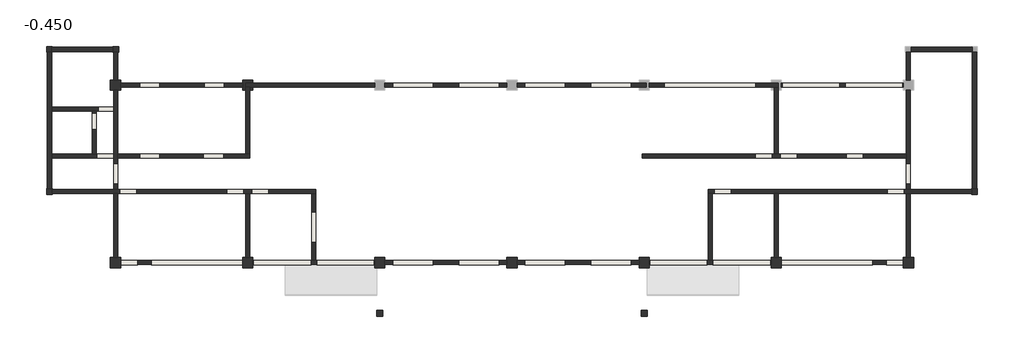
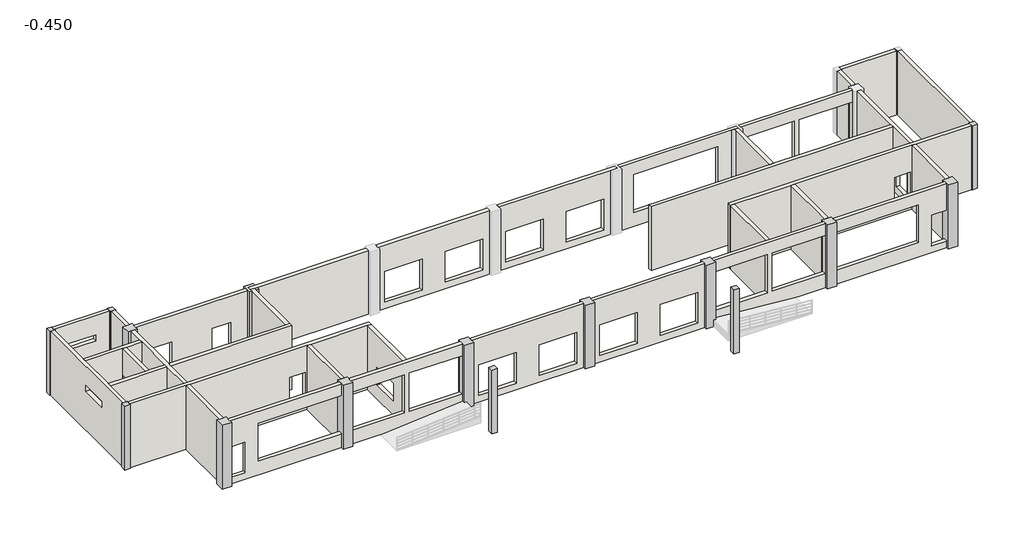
# One storey, part 1 of 2: 34 walls, 15 columns.
"""IFC4 building model written with IfcOpenShell, lengths in millimetres."""

from ifc_helpers import new_model, si_unit, frame, origin, place, context, project, spatial, polyline, outline, extrude, faceted_brep, transform, mapped, element, save
from components import z1_350mmx350mm_4dd75d84, z1_350mmx350mm_3cc50a67, z2_600mmx600mm_a56e41cd, z2_600mmx600mm_1a03ecea

model = new_model("IFC4")

# Units and contexts
model_context = context("Model", 3, world=origin())
ifc_project = project(units=[si_unit("LENGTHUNIT", "METRE", prefix="MILLI")], contexts=[model_context])

# Site, building, storey
site = spatial("IfcSite", under=ifc_project)
building = spatial("IfcBuilding", under=site)
storey = spatial("IfcBuildingStorey", under=building, Name="-0.450", Elevation=-450.0)

# Columns
placement = place(None, origin())
z1_350mmx350mm_shape = z1_350mmx350mm_4dd75d84(model_context)
element("IfcColumn", 1, ObjectType="混凝土 - 矩形 - 柱 : Z1-350mmX350mm", at=placement, inside=storey, context=model_context, shape_type="MappedRepresentation", body=[
    mapped(z1_350mmx350mm_shape, transform((-7567.0109656, 7616.6095817, 0.0), x_axis=(1.0, 0.0, 0.0), y_axis=(0.0, 1.0, 0.0), z_axis=(0.0, 0.0, 1.0))),
])
element("IfcColumn", 2, ObjectType="混凝土 - 矩形 - 柱 : Z1-350mmX350mm", at=placement, inside=storey, context=model_context, shape_type="MappedRepresentation", body=[
    mapped(z1_350mmx350mm_shape, transform((-3667.0109656, 7616.6095817, 0.0), x_axis=(1.0, 0.0, 0.0), y_axis=(0.0, 1.0, 0.0), z_axis=(0.0, 0.0, 1.0))),
])
element("IfcColumn", 3, ObjectType="混凝土 - 矩形 - 柱 : Z1-350mmX350mm", at=placement, inside=storey, context=model_context, shape_type="MappedRepresentation", body=[
    mapped(z1_350mmx350mm_shape, transform((-7567.0109656, -783.3904183, 0.0), x_axis=(1.0, 0.0, 0.0), y_axis=(0.0, 1.0, 0.0), z_axis=(0.0, 0.0, 1.0))),
])
element("IfcColumn", 4, ObjectType="混凝土 - 矩形 - 柱 : Z1-350mmX350mm", at=placement, inside=storey, context=model_context, shape_type="MappedRepresentation", body=[
    mapped(z1_350mmx350mm_shape, transform((11932.9890344, -7983.3904183, 0.0), x_axis=(1.0, 0.0, 0.0), y_axis=(0.0, 1.0, 0.0), z_axis=(0.0, 0.0, 1.0))),
])
z1_350mmx350mm_2_shape = z1_350mmx350mm_3cc50a67(model_context)
element("IfcColumn", 5, ObjectType="混凝土 - 矩形 - 柱 : Z1-350mmX350mm", at=placement, inside=storey, context=model_context, shape_type="MappedRepresentation", body=[
    mapped(z1_350mmx350mm_2_shape, transform((47032.9890344, -783.3904183, 0.0), x_axis=(-1.0, 0.0, 0.0), y_axis=(0.0, -1.0, 0.0), z_axis=(0.0, 0.0, 1.0))),
])
element("IfcColumn", 6, ObjectType="混凝土 - 矩形 - 柱 : Z1-350mmX350mm", at=placement, inside=storey, context=model_context, shape_type="MappedRepresentation", body=[
    mapped(z1_350mmx350mm_2_shape, transform((27532.9890344, -7983.3904183, 0.0), x_axis=(-1.0, 0.0, 0.0), y_axis=(0.0, -1.0, 0.0), z_axis=(0.0, 0.0, 1.0))),
])
z2_600mmx600mm_shape = z2_600mmx600mm_a56e41cd(model_context)
element("IfcColumn", 7, ObjectType="混凝土 - 矩形 - 柱 : Z2-600mmX600mm", at=placement, inside=storey, context=model_context, shape_type="MappedRepresentation", body=[
    mapped(z2_600mmx600mm_shape, transform((-3667.0109656, 5516.6095817, 0.0), x_axis=(1.0, 0.0, 0.0), y_axis=(0.0, 1.0, 0.0), z_axis=(0.0, 0.0, 1.0))),
])
element("IfcColumn", 8, ObjectType="混凝土 - 矩形 - 柱 : Z2-600mmX600mm", at=placement, inside=storey, context=model_context, shape_type="MappedRepresentation", body=[
    mapped(z2_600mmx600mm_shape, transform((4132.9890344, 5516.6095817, 0.0), x_axis=(1.0, 0.0, 0.0), y_axis=(0.0, 1.0, 0.0), z_axis=(0.0, 0.0, 1.0))),
])
element("IfcColumn", 9, ObjectType="混凝土 - 矩形 - 柱 : Z2-600mmX600mm", at=placement, inside=storey, context=model_context, shape_type="MappedRepresentation", body=[
    mapped(z2_600mmx600mm_shape, transform((-3667.0109656, -4983.3904183, 0.0), x_axis=(1.0, 0.0, 0.0), y_axis=(0.0, 1.0, 0.0), z_axis=(0.0, 0.0, 1.0))),
])
element("IfcColumn", 10, ObjectType="混凝土 - 矩形 - 柱 : Z2-600mmX600mm", at=placement, inside=storey, context=model_context, shape_type="MappedRepresentation", body=[
    mapped(z2_600mmx600mm_shape, transform((4132.9890344, -4983.3904183, 0.0), x_axis=(1.0, 0.0, 0.0), y_axis=(0.0, 1.0, 0.0), z_axis=(0.0, 0.0, 1.0))),
])
element("IfcColumn", 11, ObjectType="混凝土 - 矩形 - 柱 : Z2-600mmX600mm", at=placement, inside=storey, context=model_context, shape_type="MappedRepresentation", body=[
    mapped(z2_600mmx600mm_shape, transform((11932.9890344, -4983.3904183, 0.0), x_axis=(1.0, 0.0, 0.0), y_axis=(0.0, 1.0, 0.0), z_axis=(0.0, 0.0, 1.0))),
])
element("IfcColumn", 12, ObjectType="混凝土 - 矩形 - 柱 : Z2-600mmX600mm", at=placement, inside=storey, context=model_context, shape_type="MappedRepresentation", body=[
    mapped(z2_600mmx600mm_shape, transform((19732.9890344, -4983.3904183, 0.0), x_axis=(1.0, 0.0, 0.0), y_axis=(0.0, 1.0, 0.0), z_axis=(0.0, 0.0, 1.0))),
])
z2_600mmx600mm_2_shape = z2_600mmx600mm_1a03ecea(model_context)
element("IfcColumn", 13, ObjectType="混凝土 - 矩形 - 柱 : Z2-600mmX600mm", at=placement, inside=storey, context=model_context, shape_type="MappedRepresentation", body=[
    mapped(z2_600mmx600mm_2_shape, transform((43132.9890344, -4983.3904183, 0.0), x_axis=(-1.0, 0.0, 0.0), y_axis=(0.0, -1.0, 0.0), z_axis=(0.0, 0.0, 1.0))),
])
element("IfcColumn", 14, ObjectType="混凝土 - 矩形 - 柱 : Z2-600mmX600mm", at=placement, inside=storey, context=model_context, shape_type="MappedRepresentation", body=[
    mapped(z2_600mmx600mm_2_shape, transform((35332.9890344, -4983.3904183, 0.0), x_axis=(-1.0, 0.0, 0.0), y_axis=(0.0, -1.0, 0.0), z_axis=(0.0, 0.0, 1.0))),
])
element("IfcColumn", 15, ObjectType="混凝土 - 矩形 - 柱 : Z2-600mmX600mm", at=placement, inside=storey, context=model_context, shape_type="MappedRepresentation", body=[
    mapped(z2_600mmx600mm_2_shape, transform((27532.9890344, -4983.3904183, 0.0), x_axis=(-1.0, 0.0, 0.0), y_axis=(0.0, -1.0, 0.0), z_axis=(0.0, 0.0, 1.0))),
])

# Walls
element("IfcWall", 16, ObjectType="240mm厚墙", at=placement, inside=storey, context=model_context, shape_type="Brep", body=[
    faceted_brep([(-7687.0109656, 7441.6095817, -450.0), (-7687.0109656, -608.3904183, -450.0), (-7687.0109656, -608.3904183, 3900.0), (-7687.0109656, 7441.6095817, 3900.0), (-7687.0109656, 3506.6095817, 2600.0), (-7687.0109656, 1706.6095817, 2600.0), (-7687.0109656, 1706.6095817, 2200.0), (-7687.0109656, 3506.6095817, 2200.0), (-7447.0109656, 7441.6095817, -450.0), (-7447.0109656, 7441.6095817, 3900.0), (-7447.0109656, 4221.6095817, 3900.0), (-7447.0109656, 3981.6095817, 3900.0), (-7447.0109656, 1436.6095817, 3900.0), (-7447.0109656, 1196.6095817, 3900.0), (-7447.0109656, -608.3904183, 3900.0), (-7447.0109656, -608.3904183, -450.0), (-7447.0109656, 1196.6095817, -450.0), (-7447.0109656, 1436.6095817, -450.0), (-7447.0109656, 3981.6095817, -450.0), (-7447.0109656, 4221.6095817, -450.0), (-7447.0109656, 3506.6095817, 2600.0), (-7447.0109656, 3506.6095817, 2200.0), (-7447.0109656, 1706.6095817, 2200.0), (-7447.0109656, 1706.6095817, 2600.0)], [[[0, 1, 2, 3], [4, 5, 6, 7]], [[8, 9, 10, 11, 12, 13, 14, 15, 16, 17, 18, 19], [20, 21, 22, 23]], [[1, 0, 8, 19, 18, 17, 16, 15]], [[2, 1, 15, 14]], [[3, 2, 14, 13, 12, 11, 10, 9]], [[0, 3, 9, 8]], [[21, 20, 4, 7]], [[22, 21, 7, 6]], [[23, 22, 6, 5]], [[20, 23, 5, 4]]]),
])
element("IfcWall", 17, ObjectType="240mm厚墙", at=placement, inside=storey, context=model_context, shape_type="Brep", body=[
    faceted_brep([(-7392.0109656, -903.3904183, -450.0), (-3787.0109656, -903.3904183, -450.0), (-3547.0109656, -903.3904183, -450.0), (4012.9890344, -903.3904183, -450.0), (4252.9890344, -903.3904183, -450.0), (7912.9890344, -903.3904183, -450.0), (8152.9890344, -903.3904183, -450.0), (8152.9890344, -903.3904183, 3900.0), (7912.9890344, -903.3904183, 3900.0), (4252.9890344, -903.3904183, 3900.0), (4012.9890344, -903.3904183, 3900.0), (-3547.0109656, -903.3904183, 3900.0), (-3787.0109656, -903.3904183, 3900.0), (-7392.0109656, -903.3904183, 3900.0), (-3427.0109656, -903.3904183, 0.0), (-3427.0109656, -903.3904183, 2100.0), (-2427.0109656, -903.3904183, 2100.0), (-2427.0109656, -903.3904183, 0.0), (3897.9890344, -903.3904183, 0.0), (2897.9890344, -903.3904183, 0.0), (2897.9890344, -903.3904183, 2100.0), (3897.9890344, -903.3904183, 2100.0), (4367.9890344, -903.3904183, 0.0), (4367.9890344, -903.3904183, 2100.0), (5367.9890344, -903.3904183, 2100.0), (5367.9890344, -903.3904183, 0.0), (-7392.0109656, -663.3904183, -450.0), (-7392.0109656, -663.3904183, 3900.0), (-3787.0109656, -663.3904183, 3900.0), (-3547.0109656, -663.3904183, 3900.0), (8152.9890344, -663.3904183, 3900.0), (8152.9890344, -663.3904183, -450.0), (-3547.0109656, -663.3904183, -450.0), (-3787.0109656, -663.3904183, -450.0), (-3427.0109656, -663.3904183, 0.0), (-2427.0109656, -663.3904183, 0.0), (-2427.0109656, -663.3904183, 2100.0), (-3427.0109656, -663.3904183, 2100.0), (3897.9890344, -663.3904183, 0.0), (3897.9890344, -663.3904183, 2100.0), (2897.9890344, -663.3904183, 2100.0), (2897.9890344, -663.3904183, 0.0), (4367.9890344, -663.3904183, 0.0), (5367.9890344, -663.3904183, 0.0), (5367.9890344, -663.3904183, 2100.0), (4367.9890344, -663.3904183, 2100.0)], [[[0, 1, 2, 3, 4, 5, 6, 7, 8, 9, 10, 11, 12, 13], [14, 15, 16, 17], [18, 19, 20, 21], [22, 23, 24, 25]], [[26, 27, 28, 29, 30, 31, 32, 33], [34, 35, 36, 37], [38, 39, 40, 41], [42, 43, 44, 45]], [[6, 5, 4, 3, 2, 1, 0, 26, 33, 32, 31]], [[13, 12, 11, 10, 9, 8, 7, 30, 29, 28, 27]], [[0, 13, 27, 26]], [[7, 6, 31, 30]], [[15, 14, 34, 37]], [[16, 15, 37, 36]], [[17, 16, 36, 35]], [[14, 17, 35, 34]], [[39, 38, 18, 21]], [[40, 39, 21, 20]], [[41, 40, 20, 19]], [[38, 41, 19, 18]], [[23, 22, 42, 45]], [[24, 23, 45, 44]], [[25, 24, 44, 43]], [[22, 25, 43, 42]]]),
])
element("IfcWall", 18, ObjectType="240mm厚墙", at=placement, inside=storey, context=model_context, shape_type="SweptSolid", body=[
    extrude(outline(polyline([(-903.3904183, -450.0), (-4863.3904183, -450.0), (-4863.3904183, 3900.0), (-903.3904183, 3900.0), (-903.3904183, -450.0)]), holes=[polyline([(-3783.3904183, 1700.0), (-3783.3904183, 500.0), (-1983.3904183, 500.0), (-1983.3904183, 1700.0), (-3783.3904183, 1700.0)])]), frame((7912.9890344, 0.0, 0.0), z_axis=(1.0, 0.0, 0.0), x_axis=(0.0, 1.0, 0.0)), (0.0, 0.0, 1.0), 240.0),
])
element("IfcWall", 19, ObjectType="240mm厚墙", at=placement, inside=storey, context=model_context, shape_type="Brep", body=[
    faceted_brep([(11632.9890344, -4863.3904183, -450.0), (8152.9890344, -4863.3904183, -450.0), (7912.9890344, -4863.3904183, -450.0), (4432.9890344, -4863.3904183, -450.0), (4432.9890344, -4863.3904183, 3900.0), (7912.9890344, -4863.3904183, 3900.0), (8152.9890344, -4863.3904183, 3900.0), (11632.9890344, -4863.3904183, 3900.0), (11592.9890344, -4863.3904183, 3100.0), (8192.9890344, -4863.3904183, 3100.0), (8192.9890344, -4863.3904183, 500.0), (11592.9890344, -4863.3904183, 500.0), (7872.9890344, -4863.3904183, 500.0), (7872.9890344, -4863.3904183, 3100.0), (4472.9890344, -4863.3904183, 3100.0), (4472.9890344, -4863.3904183, 500.0), (4432.9890344, -5103.3904183, -450.0), (11632.9890344, -5103.3904183, -450.0), (11632.9890344, -5103.3904183, 3900.0), (4432.9890344, -5103.3904183, 3900.0), (11592.9890344, -5103.3904183, 3100.0), (11592.9890344, -5103.3904183, 500.0), (8192.9890344, -5103.3904183, 500.0), (8192.9890344, -5103.3904183, 3100.0), (7872.9890344, -5103.3904183, 3100.0), (7872.9890344, -5103.3904183, 500.0), (4472.9890344, -5103.3904183, 500.0), (4472.9890344, -5103.3904183, 3100.0)], [[[0, 1, 2, 3, 4, 5, 6, 7], [8, 9, 10, 11], [12, 13, 14, 15]], [[16, 17, 18, 19], [20, 21, 22, 23], [24, 25, 26, 27]], [[3, 2, 1, 0, 17, 16]], [[4, 3, 16, 19]], [[7, 6, 5, 4, 19, 18]], [[0, 7, 18, 17]], [[21, 20, 8, 11]], [[22, 21, 11, 10]], [[23, 22, 10, 9]], [[20, 23, 9, 8]], [[24, 13, 12, 25]], [[25, 12, 15, 26]], [[13, 24, 27, 14]], [[14, 27, 26, 15]]]),
])
element("IfcWall", 20, ObjectType="240mm厚墙", at=placement, inside=storey, context=model_context, shape_type="SweptSolid", body=[
    extrude(outline(polyline([(3900.0, -3367.0109656), (2100.0, -3367.0109656), (2100.0, -2367.0109656), (0.0, -2367.0109656), (0.0, -3367.0109656), (-450.0, -3367.0109656), (-450.0, 3832.9890344), (500.0, 3832.9890344), (500.0, -1567.0109656), (3100.0, -1567.0109656), (3100.0, 3832.9890344), (3900.0, 3832.9890344), (3900.0, -3367.0109656)])), frame((0.0, -5103.3904183, 0.0), z_axis=(0.0, 1.0, 0.0), x_axis=(0.0, 0.0, 1.0)), (0.0, 0.0, 1.0), 240.0),
])
element("IfcWall", 21, ObjectType="240mm厚墙", at=placement, inside=storey, context=model_context, shape_type="SweptSolid", body=[
    extrude(outline(polyline([(-3547.0109656, -903.3904183), (-3547.0109656, -4683.3904183), (-3787.0109656, -4683.3904183), (-3787.0109656, -903.3904183), (-3547.0109656, -903.3904183)])), frame((0.0, 0.0, -450.0), z_axis=(0.0, 0.0, 1.0), x_axis=(1.0, 0.0, 0.0)), (0.0, 0.0, 1.0), 4350.0),
])
element("IfcWall", 22, ObjectType="240mm厚墙", at=placement, inside=storey, context=model_context, shape_type="SweptSolid", body=[
    extrude(outline(polyline([(4252.9890344, -903.3904183), (4252.9890344, -4683.3904183), (4012.9890344, -4683.3904183), (4012.9890344, -903.3904183), (4252.9890344, -903.3904183)])), frame((0.0, 0.0, -450.0), z_axis=(0.0, 0.0, 1.0), x_axis=(1.0, 0.0, 0.0)), (0.0, 0.0, 1.0), 4350.0),
])
element("IfcWall", 23, ObjectType="240mm厚墙", at=placement, inside=storey, context=model_context, shape_type="SweptSolid", body=[
    extrude(outline(polyline([(-450.0, 12232.9890344), (-450.0, 19432.9890344), (3900.0, 19432.9890344), (3900.0, 12232.9890344), (-450.0, 12232.9890344)]), holes=[polyline([(0.0, 16582.9890344), (2100.0, 16582.9890344), (2100.0, 18982.9890344), (0.0, 18982.9890344), (0.0, 16582.9890344)]), polyline([(0.0, 12682.9890344), (2100.0, 12682.9890344), (2100.0, 15082.9890344), (0.0, 15082.9890344), (0.0, 12682.9890344)])]), frame((0.0, -5103.3904183, 0.0), z_axis=(0.0, 1.0, 0.0), x_axis=(0.0, 0.0, 1.0)), (0.0, 0.0, 1.0), 240.0),
])
element("IfcWall", 24, ObjectType="240mm厚墙", at=placement, inside=storey, context=model_context, shape_type="SweptSolid", body=[
    extrude(outline(polyline([(-450.0, 12232.9890344), (-450.0, 19432.9890344), (3900.0, 19432.9890344), (3900.0, 12232.9890344), (-450.0, 12232.9890344)]), holes=[polyline([(2100.0, 15082.9890344), (0.0, 15082.9890344), (0.0, 12682.9890344), (2100.0, 12682.9890344), (2100.0, 15082.9890344)]), polyline([(2100.0, 18982.9890344), (0.0, 18982.9890344), (0.0, 16582.9890344), (2100.0, 16582.9890344), (2100.0, 18982.9890344)])]), frame((0.0, 5396.6095817, 0.0), z_axis=(0.0, 1.0, 0.0), x_axis=(0.0, 0.0, 1.0)), (0.0, 0.0, 1.0), 240.0),
])
element("IfcWall", 25, ObjectType="240mm厚墙", at=placement, inside=storey, context=model_context, shape_type="Brep", body=[
    faceted_brep([(11632.9890344, 5636.6095817, -450.0), (4012.9890344, 5636.6095817, -450.0), (4012.9890344, 5636.6095817, 3900.0), (11632.9890344, 5636.6095817, 3900.0), (11632.9890344, 5396.6095817, -450.0), (11632.9890344, 5396.6095817, 3900.0), (4252.9890344, 5396.6095817, 3900.0), (4012.9890344, 5396.6095817, 3900.0), (4012.9890344, 5396.6095817, -450.0), (4252.9890344, 5396.6095817, -450.0)], [[[0, 1, 2, 3]], [[4, 5, 6, 7, 8, 9]], [[1, 0, 4, 9, 8]], [[3, 2, 7, 6, 5]], [[0, 3, 5, 4]], [[2, 1, 8, 7]]]),
])
element("IfcWall", 26, ObjectType="240mm厚墙", at=placement, inside=storey, context=model_context, shape_type="SweptSolid", body=[
    extrude(outline(polyline([(-450.0, -3367.0109656), (-450.0, 3832.9890344), (3900.0, 3832.9890344), (3900.0, -3367.0109656), (-450.0, -3367.0109656)]), holes=[polyline([(0.0, -2247.0109656), (2100.0, -2247.0109656), (2100.0, -1047.0109656), (0.0, -1047.0109656), (0.0, -2247.0109656)]), polyline([(0.0, 1552.9890344), (2100.0, 1552.9890344), (2100.0, 2752.9890344), (0.0, 2752.9890344), (0.0, 1552.9890344)])]), frame((0.0, 5396.6095817, 0.0), z_axis=(0.0, 1.0, 0.0), x_axis=(0.0, 0.0, 1.0)), (0.0, 0.0, 1.0), 240.0),
])
element("IfcWall", 27, ObjectType="240mm厚墙", at=placement, inside=storey, context=model_context, shape_type="SweptSolid", body=[
    extrude(outline(polyline([(-3547.0109656, 7441.6095817), (-3547.0109656, 5816.6095817), (-3787.0109656, 5816.6095817), (-3787.0109656, 7441.6095817), (-3547.0109656, 7441.6095817)])), frame((0.0, 0.0, -450.0), z_axis=(0.0, 0.0, 1.0), x_axis=(1.0, 0.0, 0.0)), (0.0, 0.0, 1.0), 4350.0),
])
element("IfcWall", 28, ObjectType="240mm厚墙", at=placement, inside=storey, context=model_context, shape_type="SweptSolid", body=[
    extrude(outline(polyline([(-450.0, -3842.0109656), (3900.0, -3842.0109656), (3900.0, -7447.0109656), (-450.0, -7447.0109656), (-450.0, -3842.0109656)]), holes=[polyline([(2600.0, -4744.5109656), (2200.0, -4744.5109656), (2200.0, -6544.5109656), (2600.0, -6544.5109656), (2600.0, -4744.5109656)])]), frame((0.0, 7496.6095817, 0.0), z_axis=(0.0, 1.0, 0.0), x_axis=(0.0, 0.0, 1.0)), (0.0, 0.0, 1.0), 240.0),
])
element("IfcWall", 29, ObjectType="240mm厚墙", at=placement, inside=storey, context=model_context, shape_type="Brep", body=[
    faceted_brep([(-3787.0109656, 5216.6095817, -450.0), (-3787.0109656, 4221.6095817, -450.0), (-3787.0109656, 3981.6095817, -450.0), (-3787.0109656, 1436.6095817, -450.0), (-3787.0109656, 1196.6095817, -450.0), (-3787.0109656, -663.3904183, -450.0), (-3787.0109656, -663.3904183, 3900.0), (-3787.0109656, 1196.6095817, 3900.0), (-3787.0109656, 1436.6095817, 3900.0), (-3787.0109656, 3981.6095817, 3900.0), (-3787.0109656, 4221.6095817, 3900.0), (-3787.0109656, 5216.6095817, 3900.0), (-3787.0109656, -335.8904183, 0.0), (-3787.0109656, 864.1095817, 0.0), (-3787.0109656, 864.1095817, 2100.0), (-3787.0109656, -335.8904183, 2100.0), (-3547.0109656, 5216.6095817, -450.0), (-3547.0109656, 5216.6095817, 3900.0), (-3547.0109656, 1436.6095817, 3900.0), (-3547.0109656, 1196.6095817, 3900.0), (-3547.0109656, -663.3904183, 3900.0), (-3547.0109656, -663.3904183, -450.0), (-3547.0109656, 1196.6095817, -450.0), (-3547.0109656, 1436.6095817, -450.0), (-3547.0109656, -335.8904183, 0.0), (-3547.0109656, -335.8904183, 2100.0), (-3547.0109656, 864.1095817, 2100.0), (-3547.0109656, 864.1095817, 0.0)], [[[0, 1, 2, 3, 4, 5, 6, 7, 8, 9, 10, 11], [12, 13, 14, 15]], [[16, 17, 18, 19, 20, 21, 22, 23], [24, 25, 26, 27]], [[5, 4, 3, 2, 1, 0, 16, 23, 22, 21]], [[11, 10, 9, 8, 7, 6, 20, 19, 18, 17]], [[0, 11, 17, 16]], [[6, 5, 21, 20]], [[25, 24, 12, 15]], [[26, 25, 15, 14]], [[27, 26, 14, 13]], [[24, 27, 13, 12]]]),
])
element("IfcWall", 30, ObjectType="240mm厚墙", at=placement, inside=storey, context=model_context, shape_type="Brep", body=[
    faceted_brep([(-7447.0109656, 1196.6095817, 3900.0), (-7447.0109656, 1196.6095817, -450.0), (-3787.0109656, 1196.6095817, -450.0), (-3787.0109656, 1196.6095817, 0.0), (-4787.0109656, 1196.6095817, 0.0), (-4787.0109656, 1196.6095817, 2100.0), (-3787.0109656, 1196.6095817, 2100.0), (-3787.0109656, 1196.6095817, 3900.0), (-7447.0109656, 1436.6095817, -450.0), (-7447.0109656, 1436.6095817, 3900.0), (-5057.0109656, 1436.6095817, 3900.0), (-4817.0109656, 1436.6095817, 3900.0), (-3787.0109656, 1436.6095817, 3900.0), (-3787.0109656, 1436.6095817, 2100.0), (-4787.0109656, 1436.6095817, 2100.0), (-4787.0109656, 1436.6095817, 0.0), (-3787.0109656, 1436.6095817, 0.0), (-3787.0109656, 1436.6095817, -450.0), (-4817.0109656, 1436.6095817, -450.0), (-5057.0109656, 1436.6095817, -450.0)], [[[0, 1, 2, 3, 4, 5, 6, 7]], [[8, 9, 10, 11, 12, 13, 14, 15, 16, 17, 18, 19]], [[1, 8, 19, 18, 17, 2]], [[9, 0, 7, 12, 11, 10]], [[1, 0, 9, 8]], [[3, 2, 17, 16]], [[7, 6, 13, 12]], [[14, 13, 6, 5]], [[15, 14, 5, 4]], [[16, 15, 4, 3]]]),
    faceted_brep([(4252.9890344, 1196.6095817, -450.0), (4252.9890344, 1196.6095817, 3900.0), (-3547.0109656, 1196.6095817, 3900.0), (-3547.0109656, 1196.6095817, -450.0), (-1047.0109656, 1196.6095817, 2100.0), (-1047.0109656, 1196.6095817, 0.0), (-2247.0109656, 1196.6095817, 0.0), (-2247.0109656, 1196.6095817, 2100.0), (2717.9890344, 1196.6095817, 2100.0), (2717.9890344, 1196.6095817, 0.0), (1517.9890344, 1196.6095817, 0.0), (1517.9890344, 1196.6095817, 2100.0), (4252.9890344, 1436.6095817, 3900.0), (4252.9890344, 1436.6095817, -450.0), (4012.9890344, 1436.6095817, -450.0), (-3547.0109656, 1436.6095817, -450.0), (-3547.0109656, 1436.6095817, 3900.0), (4012.9890344, 1436.6095817, 3900.0), (-1047.0109656, 1436.6095817, 0.0), (-1047.0109656, 1436.6095817, 2100.0), (-2247.0109656, 1436.6095817, 2100.0), (-2247.0109656, 1436.6095817, 0.0), (2717.9890344, 1436.6095817, 0.0), (2717.9890344, 1436.6095817, 2100.0), (1517.9890344, 1436.6095817, 2100.0), (1517.9890344, 1436.6095817, 0.0)], [[[0, 1, 2, 3], [4, 5, 6, 7], [8, 9, 10, 11]], [[12, 13, 14, 15, 16, 17], [18, 19, 20, 21], [22, 23, 24, 25]], [[13, 0, 3, 15, 14]], [[1, 12, 17, 16, 2]], [[3, 2, 16, 15]], [[1, 0, 13, 12]], [[19, 18, 5, 4]], [[20, 19, 4, 7]], [[21, 20, 7, 6]], [[18, 21, 6, 5]], [[23, 22, 9, 8]], [[24, 23, 8, 11]], [[25, 24, 11, 10]], [[22, 25, 10, 9]]]),
])
element("IfcWall", 31, ObjectType="240mm厚墙", at=placement, inside=storey, context=model_context, shape_type="SweptSolid", body=[
    extrude(outline(polyline([(4252.9890344, 5396.6095817), (4252.9890344, 1436.6095817), (4012.9890344, 1436.6095817), (4012.9890344, 5396.6095817), (4252.9890344, 5396.6095817)])), frame((0.0, 0.0, -450.0), z_axis=(0.0, 0.0, 1.0), x_axis=(1.0, 0.0, 0.0)), (0.0, 0.0, 1.0), 4350.0),
])
element("IfcWall", 32, ObjectType="240mm厚墙", at=placement, inside=storey, context=model_context, shape_type="Brep", body=[
    faceted_brep([(-4687.0109656, 3981.6095817, 2100.0), (-3787.0109656, 3981.6095817, 2100.0), (-3787.0109656, 3981.6095817, 3900.0), (-4817.0109656, 3981.6095817, 3900.0), (-5057.0109656, 3981.6095817, 3900.0), (-7447.0109656, 3981.6095817, 3900.0), (-7447.0109656, 3981.6095817, -450.0), (-5057.0109656, 3981.6095817, -450.0), (-4817.0109656, 3981.6095817, -450.0), (-3787.0109656, 3981.6095817, -450.0), (-3787.0109656, 3981.6095817, 0.0), (-4687.0109656, 3981.6095817, 0.0), (-3787.0109656, 4221.6095817, 3900.0), (-3787.0109656, 4221.6095817, 2100.0), (-4687.0109656, 4221.6095817, 2100.0), (-4687.0109656, 4221.6095817, 0.0), (-3787.0109656, 4221.6095817, 0.0), (-3787.0109656, 4221.6095817, -450.0), (-7447.0109656, 4221.6095817, -450.0), (-7447.0109656, 4221.6095817, 3900.0)], [[[0, 1, 2, 3, 4, 5, 6, 7, 8, 9, 10, 11]], [[12, 13, 14, 15, 16, 17, 18, 19]], [[9, 8, 7, 6, 18, 17]], [[5, 4, 3, 2, 12, 19]], [[6, 5, 19, 18]], [[10, 9, 17, 16]], [[2, 1, 13, 12]], [[14, 13, 1, 0]], [[15, 14, 0, 11]], [[16, 15, 11, 10]]]),
])
element("IfcWall", 33, ObjectType="240mm厚墙", at=placement, inside=storey, context=model_context, shape_type="SweptSolid", body=[
    extrude(outline(polyline([(3981.6095817, -450.0), (1436.6095817, -450.0), (1436.6095817, 3900.0), (3981.6095817, 3900.0), (3981.6095817, -450.0)]), holes=[polyline([(3866.6095817, 0.0), (3866.6095817, 2100.0), (2866.6095817, 2100.0), (2866.6095817, 0.0), (3866.6095817, 0.0)])]), frame((-5057.0109656, 0.0, 0.0), z_axis=(1.0, 0.0, 0.0), x_axis=(0.0, 1.0, 0.0)), (0.0, 0.0, 1.0), 240.0),
])
element("IfcWall", 34, ObjectType="240mm厚墙", at=placement, inside=storey, context=model_context, shape_type="SweptSolid", body=[
    extrude(outline(polyline([(46912.9890344, -608.3904183), (46912.9890344, 7441.6095817), (47152.9890344, 7441.6095817), (47152.9890344, -608.3904183), (46912.9890344, -608.3904183)])), frame((0.0, 0.0, -450.0), z_axis=(0.0, 0.0, 1.0), x_axis=(1.0, 0.0, 0.0)), (0.0, 0.0, 1.0), 4350.0),
])
element("IfcWall", 35, ObjectType="240mm厚墙", at=placement, inside=storey, context=model_context, shape_type="Brep", body=[
    faceted_brep([(46857.9890344, -663.3904183, -450.0), (43252.9890344, -663.3904183, -450.0), (43012.9890344, -663.3904183, -450.0), (31312.9890344, -663.3904183, -450.0), (31312.9890344, -663.3904183, 3900.0), (43012.9890344, -663.3904183, 3900.0), (43252.9890344, -663.3904183, 3900.0), (46857.9890344, -663.3904183, 3900.0), (31667.9890344, -663.3904183, 0.0), (32667.9890344, -663.3904183, 0.0), (32667.9890344, -663.3904183, 2100.0), (31667.9890344, -663.3904183, 2100.0), (42897.9890344, -663.3904183, 0.0), (42897.9890344, -663.3904183, 2100.0), (41897.9890344, -663.3904183, 2100.0), (41897.9890344, -663.3904183, 0.0), (46857.9890344, -903.3904183, -450.0), (46857.9890344, -903.3904183, 3900.0), (43252.9890344, -903.3904183, 3900.0), (43012.9890344, -903.3904183, 3900.0), (35452.9890344, -903.3904183, 3900.0), (35212.9890344, -903.3904183, 3900.0), (31552.9890344, -903.3904183, 3900.0), (31312.9890344, -903.3904183, 3900.0), (31312.9890344, -903.3904183, -450.0), (31552.9890344, -903.3904183, -450.0), (35212.9890344, -903.3904183, -450.0), (35452.9890344, -903.3904183, -450.0), (43012.9890344, -903.3904183, -450.0), (43252.9890344, -903.3904183, -450.0), (31667.9890344, -903.3904183, 0.0), (31667.9890344, -903.3904183, 2100.0), (32667.9890344, -903.3904183, 2100.0), (32667.9890344, -903.3904183, 0.0), (42897.9890344, -903.3904183, 0.0), (41897.9890344, -903.3904183, 0.0), (41897.9890344, -903.3904183, 2100.0), (42897.9890344, -903.3904183, 2100.0)], [[[0, 1, 2, 3, 4, 5, 6, 7], [8, 9, 10, 11], [12, 13, 14, 15]], [[16, 17, 18, 19, 20, 21, 22, 23, 24, 25, 26, 27, 28, 29], [30, 31, 32, 33], [34, 35, 36, 37]], [[3, 2, 1, 0, 16, 29, 28, 27, 26, 25, 24]], [[7, 6, 5, 4, 23, 22, 21, 20, 19, 18, 17]], [[0, 7, 17, 16]], [[4, 3, 24, 23]], [[31, 30, 8, 11]], [[32, 31, 11, 10]], [[33, 32, 10, 9]], [[30, 33, 9, 8]], [[13, 12, 34, 37]], [[14, 13, 37, 36]], [[15, 14, 36, 35]], [[12, 15, 35, 34]]]),
])
element("IfcWall", 36, ObjectType="240mm厚墙", at=placement, inside=storey, context=model_context, shape_type="SweptSolid", body=[
    extrude(outline(polyline([(31312.9890344, -4863.3904183), (31312.9890344, -903.3904183), (31552.9890344, -903.3904183), (31552.9890344, -4863.3904183), (31312.9890344, -4863.3904183)])), frame((0.0, 0.0, -450.0), z_axis=(0.0, 0.0, 1.0), x_axis=(1.0, 0.0, 0.0)), (0.0, 0.0, 1.0), 4350.0),
])
element("IfcWall", 37, ObjectType="240mm厚墙", at=placement, inside=storey, context=model_context, shape_type="Brep", body=[
    faceted_brep([(27832.9890344, -5103.3904183, -450.0), (35032.9890344, -5103.3904183, -450.0), (35032.9890344, -5103.3904183, 3900.0), (27832.9890344, -5103.3904183, 3900.0), (27872.9890344, -5103.3904183, 3100.0), (31272.9890344, -5103.3904183, 3100.0), (31272.9890344, -5103.3904183, 500.0), (27872.9890344, -5103.3904183, 500.0), (31592.9890344, -5103.3904183, 3100.0), (34992.9890344, -5103.3904183, 3100.0), (34992.9890344, -5103.3904183, 500.0), (31592.9890344, -5103.3904183, 500.0), (27832.9890344, -4863.3904183, -450.0), (27832.9890344, -4863.3904183, 3900.0), (31312.9890344, -4863.3904183, 3900.0), (31552.9890344, -4863.3904183, 3900.0), (35032.9890344, -4863.3904183, 3900.0), (35032.9890344, -4863.3904183, -450.0), (31552.9890344, -4863.3904183, -450.0), (31312.9890344, -4863.3904183, -450.0), (27872.9890344, -4863.3904183, 3100.0), (27872.9890344, -4863.3904183, 500.0), (31272.9890344, -4863.3904183, 500.0), (31272.9890344, -4863.3904183, 3100.0), (31592.9890344, -4863.3904183, 3100.0), (31592.9890344, -4863.3904183, 500.0), (34992.9890344, -4863.3904183, 500.0), (34992.9890344, -4863.3904183, 3100.0)], [[[0, 1, 2, 3], [4, 5, 6, 7], [8, 9, 10, 11]], [[12, 13, 14, 15, 16, 17, 18, 19], [20, 21, 22, 23], [24, 25, 26, 27]], [[1, 0, 12, 19, 18, 17]], [[2, 1, 17, 16]], [[3, 2, 16, 15, 14, 13]], [[0, 3, 13, 12]], [[21, 20, 4, 7]], [[22, 21, 7, 6]], [[23, 22, 6, 5]], [[20, 23, 5, 4]], [[25, 24, 8, 11]], [[26, 25, 11, 10]], [[27, 26, 10, 9]], [[24, 27, 9, 8]]]),
])
element("IfcWall", 38, ObjectType="240mm厚墙", at=placement, inside=storey, context=model_context, shape_type="SweptSolid", body=[
    extrude(outline(polyline([(2100.0, 41832.9890344), (2100.0, 42832.9890344), (3900.0, 42832.9890344), (3900.0, 35632.9890344), (3100.0, 35632.9890344), (3100.0, 41032.9890344), (500.0, 41032.9890344), (500.0, 35632.9890344), (-450.0, 35632.9890344), (-450.0, 42832.9890344), (0.0, 42832.9890344), (0.0, 41832.9890344), (2100.0, 41832.9890344)])), frame((0.0, -5103.3904183, 0.0), z_axis=(0.0, 1.0, 0.0), x_axis=(0.0, 0.0, 1.0)), (0.0, 0.0, 1.0), 240.0),
])
element("IfcWall", 39, ObjectType="240mm厚墙", at=placement, inside=storey, context=model_context, shape_type="SweptSolid", body=[
    extrude(outline(polyline([(43252.9890344, -903.3904183), (43252.9890344, -4683.3904183), (43012.9890344, -4683.3904183), (43012.9890344, -903.3904183), (43252.9890344, -903.3904183)])), frame((0.0, 0.0, -450.0), z_axis=(0.0, 0.0, 1.0), x_axis=(1.0, 0.0, 0.0)), (0.0, 0.0, 1.0), 4350.0),
])
element("IfcWall", 40, ObjectType="240mm厚墙", at=placement, inside=storey, context=model_context, shape_type="SweptSolid", body=[
    extrude(outline(polyline([(35452.9890344, -903.3904183), (35452.9890344, -4683.3904183), (35212.9890344, -4683.3904183), (35212.9890344, -903.3904183), (35452.9890344, -903.3904183)])), frame((0.0, 0.0, -450.0), z_axis=(0.0, 0.0, 1.0), x_axis=(1.0, 0.0, 0.0)), (0.0, 0.0, 1.0), 4350.0),
])
element("IfcWall", 41, ObjectType="240mm厚墙", at=placement, inside=storey, context=model_context, shape_type="SweptSolid", body=[
    extrude(outline(polyline([(-450.0, 20032.9890344), (-450.0, 27232.9890344), (3900.0, 27232.9890344), (3900.0, 20032.9890344), (-450.0, 20032.9890344)]), holes=[polyline([(0.0, 24382.9890344), (2100.0, 24382.9890344), (2100.0, 26782.9890344), (0.0, 26782.9890344), (0.0, 24382.9890344)]), polyline([(0.0, 20482.9890344), (2100.0, 20482.9890344), (2100.0, 22882.9890344), (0.0, 22882.9890344), (0.0, 20482.9890344)])]), frame((0.0, -5103.3904183, 0.0), z_axis=(0.0, 1.0, 0.0), x_axis=(0.0, 0.0, 1.0)), (0.0, 0.0, 1.0), 240.0),
])
element("IfcWall", 42, ObjectType="240mm厚墙", at=placement, inside=storey, context=model_context, shape_type="Brep", body=[
    faceted_brep([(20032.9890344, 5396.6095817, -450.0), (27652.9890344, 5396.6095817, -450.0), (27652.9890344, 5396.6095817, 0.0), (27652.9890344, 5396.6095817, 3900.0), (27412.9890344, 5396.6095817, 3900.0), (20032.9890344, 5396.6095817, 3900.0), (22882.9890344, 5396.6095817, 2100.0), (22882.9890344, 5396.6095817, 0.0), (20482.9890344, 5396.6095817, 0.0), (20482.9890344, 5396.6095817, 2100.0), (26782.9890344, 5396.6095817, 2100.0), (26782.9890344, 5396.6095817, 0.0), (24382.9890344, 5396.6095817, 0.0), (24382.9890344, 5396.6095817, 2100.0), (27652.9890344, 5636.6095817, -450.0), (20032.9890344, 5636.6095817, -450.0), (20032.9890344, 5636.6095817, 3900.0), (27652.9890344, 5636.6095817, 3900.0), (22882.9890344, 5636.6095817, 0.0), (22882.9890344, 5636.6095817, 2100.0), (20482.9890344, 5636.6095817, 2100.0), (20482.9890344, 5636.6095817, 0.0), (26782.9890344, 5636.6095817, 0.0), (26782.9890344, 5636.6095817, 2100.0), (24382.9890344, 5636.6095817, 2100.0), (24382.9890344, 5636.6095817, 0.0)], [[[0, 1, 2, 3, 4, 5], [6, 7, 8, 9], [10, 11, 12, 13]], [[14, 15, 16, 17], [18, 19, 20, 21], [22, 23, 24, 25]], [[1, 0, 15, 14]], [[5, 4, 3, 17, 16]], [[0, 5, 16, 15]], [[19, 18, 7, 6]], [[20, 19, 6, 9]], [[21, 20, 9, 8]], [[18, 21, 8, 7]], [[22, 11, 10, 23]], [[23, 10, 13, 24]], [[24, 13, 12, 25]], [[11, 22, 25, 12]], [[3, 2, 1, 14, 17]]]),
])
element("IfcWall", 43, ObjectType="240mm厚墙", at=placement, inside=storey, context=model_context, shape_type="Brep", body=[
    faceted_brep([(27832.9890344, 5396.6095817, -450.0), (35212.9890344, 5396.6095817, -450.0), (35452.9890344, 5396.6095817, -450.0), (35452.9890344, 5396.6095817, 3900.0), (35212.9890344, 5396.6095817, 3900.0), (27832.9890344, 5396.6095817, 3900.0), (34132.9890344, 5396.6095817, 3100.0), (34132.9890344, 5396.6095817, 500.0), (28732.9890344, 5396.6095817, 500.0), (28732.9890344, 5396.6095817, 3100.0), (27832.9890344, 5636.6095817, -450.0), (27832.9890344, 5636.6095817, 3900.0), (35452.9890344, 5636.6095817, 3900.0), (35452.9890344, 5636.6095817, -450.0), (34132.9890344, 5636.6095817, 3100.0), (28732.9890344, 5636.6095817, 3100.0), (28732.9890344, 5636.6095817, 500.0), (34132.9890344, 5636.6095817, 500.0)], [[[0, 1, 2, 3, 4, 5], [6, 7, 8, 9]], [[10, 11, 12, 13], [14, 15, 16, 17]], [[2, 1, 0, 10, 13]], [[5, 4, 3, 12, 11]], [[0, 5, 11, 10]], [[3, 2, 13, 12]], [[7, 6, 14, 17]], [[8, 7, 17, 16]], [[9, 8, 16, 15]], [[6, 9, 15, 14]]]),
])
element("IfcWall", 44, ObjectType="240mm厚墙", at=placement, inside=storey, context=model_context, shape_type="Brep", body=[
    faceted_brep([(35632.9890344, 5396.6095817, -450.0), (42832.9890344, 5396.6095817, -450.0), (42832.9890344, 5396.6095817, 3900.0), (39352.9890344, 5396.6095817, 3900.0), (39112.9890344, 5396.6095817, 3900.0), (35632.9890344, 5396.6095817, 3900.0), (42792.9890344, 5396.6095817, 3100.0), (42792.9890344, 5396.6095817, 500.0), (39392.9890344, 5396.6095817, 500.0), (39392.9890344, 5396.6095817, 3100.0), (39072.9890344, 5396.6095817, 3100.0), (39072.9890344, 5396.6095817, 500.0), (35672.9890344, 5396.6095817, 500.0), (35672.9890344, 5396.6095817, 3100.0), (42832.9890344, 5636.6095817, -450.0), (35632.9890344, 5636.6095817, -450.0), (35632.9890344, 5636.6095817, 3900.0), (42832.9890344, 5636.6095817, 3900.0), (42792.9890344, 5636.6095817, 3100.0), (39392.9890344, 5636.6095817, 3100.0), (39392.9890344, 5636.6095817, 500.0), (42792.9890344, 5636.6095817, 500.0), (39072.9890344, 5636.6095817, 500.0), (39072.9890344, 5636.6095817, 3100.0), (35672.9890344, 5636.6095817, 3100.0), (35672.9890344, 5636.6095817, 500.0)], [[[0, 1, 2, 3, 4, 5], [6, 7, 8, 9], [10, 11, 12, 13]], [[14, 15, 16, 17], [18, 19, 20, 21], [22, 23, 24, 25]], [[1, 0, 15, 14]], [[2, 1, 14, 17]], [[5, 4, 3, 2, 17, 16]], [[0, 5, 16, 15]], [[7, 6, 18, 21]], [[8, 7, 21, 20]], [[9, 8, 20, 19]], [[6, 9, 19, 18]], [[10, 23, 22, 11]], [[11, 22, 25, 12]], [[23, 10, 13, 24]], [[24, 13, 12, 25]]]),
])
element("IfcWall", 45, ObjectType="240mm厚墙", at=placement, inside=storey, context=model_context, shape_type="SweptSolid", body=[
    extrude(outline(polyline([(43252.9890344, 7441.6095817), (43252.9890344, 5816.6095817), (43012.9890344, 5816.6095817), (43012.9890344, 7441.6095817), (43252.9890344, 7441.6095817)])), frame((0.0, 0.0, -450.0), z_axis=(0.0, 0.0, 1.0), x_axis=(1.0, 0.0, 0.0)), (0.0, 0.0, 1.0), 4350.0),
])
element("IfcWall", 46, ObjectType="240mm厚墙", at=placement, inside=storey, context=model_context, shape_type="SweptSolid", body=[
    extrude(outline(polyline([(46912.9890344, 7496.6095817), (43307.9890344, 7496.6095817), (43307.9890344, 7736.6095817), (46912.9890344, 7736.6095817), (46912.9890344, 7496.6095817)])), frame((0.0, 0.0, -450.0), z_axis=(0.0, 0.0, 1.0), x_axis=(1.0, 0.0, 0.0)), (0.0, 0.0, 1.0), 4350.0),
])
element("IfcWall", 47, ObjectType="240mm厚墙", at=placement, inside=storey, context=model_context, shape_type="Brep", body=[
    faceted_brep([(43012.9890344, 5216.6095817, -450.0), (43012.9890344, 1436.6095817, -450.0), (43012.9890344, 1196.6095817, -450.0), (43012.9890344, -663.3904183, -450.0), (43012.9890344, -663.3904183, 3900.0), (43012.9890344, 1196.6095817, 3900.0), (43012.9890344, 1436.6095817, 3900.0), (43012.9890344, 5216.6095817, 3900.0), (43012.9890344, 866.6095817, 0.0), (43012.9890344, 866.6095817, 2100.0), (43012.9890344, -333.3904183, 2100.0), (43012.9890344, -333.3904183, 0.0), (43252.9890344, 5216.6095817, -450.0), (43252.9890344, 5216.6095817, 3900.0), (43252.9890344, -663.3904183, 3900.0), (43252.9890344, -663.3904183, -450.0), (43252.9890344, 866.6095817, 0.0), (43252.9890344, -333.3904183, 0.0), (43252.9890344, -333.3904183, 2100.0), (43252.9890344, 866.6095817, 2100.0)], [[[0, 1, 2, 3, 4, 5, 6, 7], [8, 9, 10, 11]], [[12, 13, 14, 15], [16, 17, 18, 19]], [[3, 2, 1, 0, 12, 15]], [[7, 6, 5, 4, 14, 13]], [[0, 7, 13, 12]], [[4, 3, 15, 14]], [[9, 8, 16, 19]], [[10, 9, 19, 18]], [[11, 10, 18, 17]], [[8, 11, 17, 16]]]),
])
element("IfcWall", 48, ObjectType="240mm厚墙", at=placement, inside=storey, context=model_context, shape_type="Brep", body=[
    faceted_brep([(43012.9890344, 1436.6095817, -450.0), (35452.9890344, 1436.6095817, -450.0), (35212.9890344, 1436.6095817, -450.0), (27412.9890344, 1436.6095817, -450.0), (27412.9890344, 1436.6095817, 0.0), (27412.9890344, 1436.6095817, 3900.0), (27652.9890344, 1436.6095817, 3900.0), (35212.9890344, 1436.6095817, 3900.0), (35452.9890344, 1436.6095817, 3900.0), (39112.9890344, 1436.6095817, 3900.0), (39352.9890344, 1436.6095817, 3900.0), (43012.9890344, 1436.6095817, 3900.0), (35567.9890344, 1436.6095817, 0.0), (36567.9890344, 1436.6095817, 0.0), (36567.9890344, 1436.6095817, 2100.0), (35567.9890344, 1436.6095817, 2100.0), (39467.9890344, 1436.6095817, 0.0), (40467.9890344, 1436.6095817, 0.0), (40467.9890344, 1436.6095817, 2100.0), (39467.9890344, 1436.6095817, 2100.0), (35097.9890344, 1436.6095817, 0.0), (35097.9890344, 1436.6095817, 2100.0), (34097.9890344, 1436.6095817, 2100.0), (34097.9890344, 1436.6095817, 0.0), (43012.9890344, 1196.6095817, -450.0), (43012.9890344, 1196.6095817, 3900.0), (27412.9890344, 1196.6095817, 3900.0), (27412.9890344, 1196.6095817, -450.0), (35567.9890344, 1196.6095817, 0.0), (35567.9890344, 1196.6095817, 2100.0), (36567.9890344, 1196.6095817, 2100.0), (36567.9890344, 1196.6095817, 0.0), (39467.9890344, 1196.6095817, 0.0), (39467.9890344, 1196.6095817, 2100.0), (40467.9890344, 1196.6095817, 2100.0), (40467.9890344, 1196.6095817, 0.0), (35097.9890344, 1196.6095817, 0.0), (34097.9890344, 1196.6095817, 0.0), (34097.9890344, 1196.6095817, 2100.0), (35097.9890344, 1196.6095817, 2100.0)], [[[0, 1, 2, 3, 4, 5, 6, 7, 8, 9, 10, 11], [12, 13, 14, 15], [16, 17, 18, 19], [20, 21, 22, 23]], [[24, 25, 26, 27], [28, 29, 30, 31], [32, 33, 34, 35], [36, 37, 38, 39]], [[3, 2, 1, 0, 24, 27]], [[11, 10, 9, 8, 7, 6, 5, 26, 25]], [[0, 11, 25, 24]], [[29, 28, 12, 15]], [[30, 29, 15, 14]], [[31, 30, 14, 13]], [[28, 31, 13, 12]], [[33, 32, 16, 19]], [[34, 33, 19, 18]], [[35, 34, 18, 17]], [[32, 35, 17, 16]], [[5, 4, 3, 27, 26]], [[21, 20, 36, 39]], [[22, 21, 39, 38]], [[23, 22, 38, 37]], [[20, 23, 37, 36]]]),
])
element("IfcWall", 49, ObjectType="240mm厚墙", at=placement, inside=storey, context=model_context, shape_type="SweptSolid", body=[
    extrude(outline(polyline([(35452.9890344, 5396.6095817), (35452.9890344, 1436.6095817), (35212.9890344, 1436.6095817), (35212.9890344, 5396.6095817), (35452.9890344, 5396.6095817)])), frame((0.0, 0.0, -450.0), z_axis=(0.0, 0.0, 1.0), x_axis=(1.0, 0.0, 0.0)), (0.0, 0.0, 1.0), 4350.0),
])

save(model, "model.ifc")
